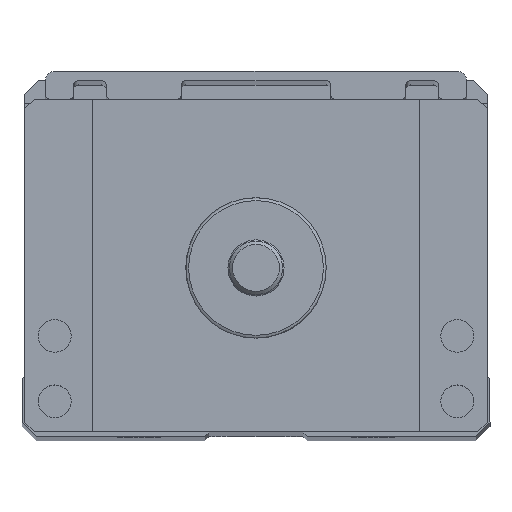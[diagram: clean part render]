
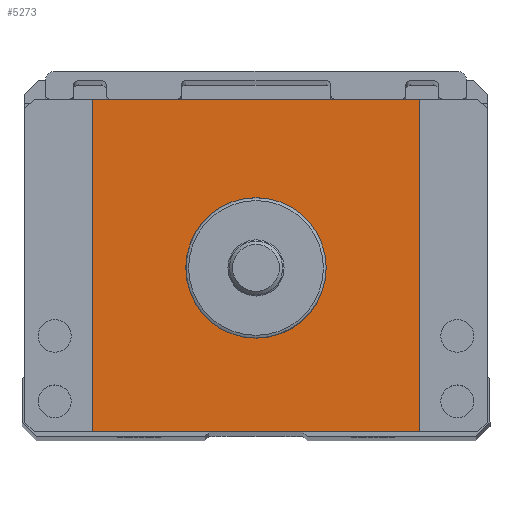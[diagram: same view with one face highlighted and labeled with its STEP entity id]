
A CAD part, top view. The second image highlights one B-rep face of the part: STEP entity #5273.
In plain terms, the highlighted planar face has unit normal (0, 0, 1).
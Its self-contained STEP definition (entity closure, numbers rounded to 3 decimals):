
#3895=FACE_BOUND('',#6954,.T.);
#3896=FACE_BOUND('',#6955,.T.);
#4635=CIRCLE('',#15737,7.5);
#5273=ADVANCED_FACE('',(#3895,#3896),#5679,.T.);
#5679=PLANE('',#15738);
#6954=EDGE_LOOP('',(#9809));
#6955=EDGE_LOOP('',(#9810,#9811,#9812,#9813));
#9809=ORIENTED_EDGE('',*,*,#12711,.T.);
#9810=ORIENTED_EDGE('',*,*,#12712,.T.);
#9811=ORIENTED_EDGE('',*,*,#12713,.T.);
#9812=ORIENTED_EDGE('',*,*,#12708,.T.);
#9813=ORIENTED_EDGE('',*,*,#12714,.T.);
#11190=VERTEX_POINT('',#29942);
#11191=VERTEX_POINT('',#29944);
#11193=VERTEX_POINT('',#29950);
#11194=VERTEX_POINT('',#29952);
#11195=VERTEX_POINT('',#29953);
#12708=EDGE_CURVE('',#11191,#11190,#13733,.T.);
#12711=EDGE_CURVE('',#11193,#11193,#4635,.T.);
#12712=EDGE_CURVE('',#11194,#11195,#13735,.T.);
#12713=EDGE_CURVE('',#11195,#11191,#13736,.T.);
#12714=EDGE_CURVE('',#11190,#11194,#13737,.T.);
#13733=LINE('',#29943,#14660);
#13735=LINE('',#29951,#14662);
#13736=LINE('',#29954,#14663);
#13737=LINE('',#29955,#14664);
#14660=VECTOR('',#18625,1.);
#14662=VECTOR('',#18633,1.);
#14663=VECTOR('',#18634,1.);
#14664=VECTOR('',#18635,1.);
#15737=AXIS2_PLACEMENT_3D('',#29949,#18631,#18632);
#15738=AXIS2_PLACEMENT_3D('',#29956,#18636,#18637);
#18625=DIRECTION('',(-1.,0.,0.));
#18631=DIRECTION('',(0.,0.,-1.));
#18632=DIRECTION('',(1.,0.,0.));
#18633=DIRECTION('',(1.,0.,0.));
#18634=DIRECTION('',(0.,1.,0.));
#18635=DIRECTION('',(0.,-1.,0.));
#18636=DIRECTION('',(0.,0.,1.));
#18637=DIRECTION('',(1.,0.,0.));
#29942=CARTESIAN_POINT('',(82.5,-4.5,101.5));
#29943=CARTESIAN_POINT('',(124.7,-4.5,101.5));
#29944=CARTESIAN_POINT('',(117.5,-4.5,101.5));
#29949=CARTESIAN_POINT('',(100.,-22.5,101.5));
#29950=CARTESIAN_POINT('',(107.5,-22.5,101.5));
#29951=CARTESIAN_POINT('',(75.3,-40.,101.5));
#29952=CARTESIAN_POINT('',(82.5,-40.,101.5));
#29953=CARTESIAN_POINT('',(117.5,-40.,101.5));
#29954=CARTESIAN_POINT('',(117.5,-40.,101.5));
#29955=CARTESIAN_POINT('',(82.5,-40.,101.5));
#29956=CARTESIAN_POINT('',(124.7,-40.,101.5));
